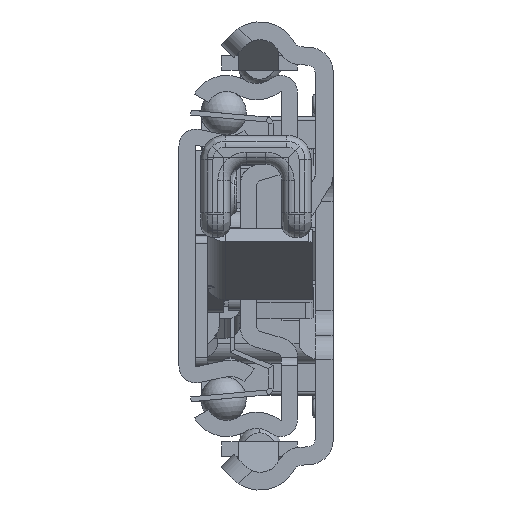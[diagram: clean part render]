
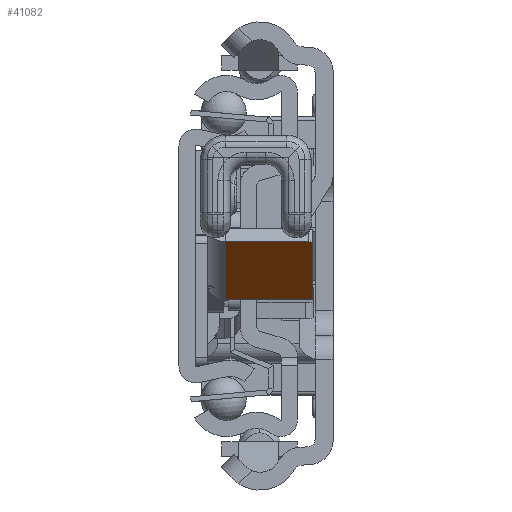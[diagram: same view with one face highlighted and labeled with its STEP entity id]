
A CAD part, left-side view. The second image highlights one B-rep face of the part: STEP entity #41082.
In plain terms, the highlighted planar face has unit normal (-0.597, 0, -0.802) as drawn and (-0.597, -0.802, 0) by its records, which use the part's own axes.
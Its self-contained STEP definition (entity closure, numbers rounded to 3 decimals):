
#40495=DIRECTION('',(0.802,-0.597,0.));
#40496=VECTOR('',#40495,12.);
#40497=CARTESIAN_POINT('',(31.957,-10.314,2.2));
#40498=LINE('',#40497,#40496);
#40523=CARTESIAN_POINT('',(32.358,-10.613,12.5));
#40524=DIRECTION('',(-0.597,-0.802,0.));
#40525=DIRECTION('',(0.,0.,1.));
#40526=AXIS2_PLACEMENT_3D('',#40523,#40524,#40525);
#40528=DIRECTION('',(-0.802,0.597,0.));
#40529=VECTOR('',#40528,11.5);
#40530=CARTESIAN_POINT('',(41.586,-17.476,13.));
#40531=LINE('',#40530,#40529);
#40532=DIRECTION('',(0.,0.,1.));
#40533=VECTOR('',#40532,10.8);
#40534=CARTESIAN_POINT('',(41.586,-17.476,2.2));
#40535=LINE('',#40534,#40533);
#40536=DIRECTION('',(0.,0.,-1.));
#40537=VECTOR('',#40536,10.3);
#40538=CARTESIAN_POINT('',(31.957,-10.314,12.5));
#40539=LINE('',#40538,#40537);
#40743=CARTESIAN_POINT('',(41.586,-17.476,2.2));
#40744=CARTESIAN_POINT('',(41.586,-17.476,13.));
#40745=VERTEX_POINT('',#40743);
#40746=VERTEX_POINT('',#40744);
#40747=CARTESIAN_POINT('',(31.957,-10.314,2.2));
#40748=VERTEX_POINT('',#40747);
#40779=CARTESIAN_POINT('',(32.358,-10.613,13.));
#40780=CARTESIAN_POINT('',(31.957,-10.314,12.5));
#40781=VERTEX_POINT('',#40779);
#40782=VERTEX_POINT('',#40780);
#41066=CARTESIAN_POINT('',(34.726,-12.374,0.));
#41067=DIRECTION('',(-0.597,-0.802,0.));
#41068=DIRECTION('',(0.802,-0.597,0.));
#41069=AXIS2_PLACEMENT_3D('',#41066,#41067,#41068);
#41070=PLANE('',#41069);
#41072=ORIENTED_EDGE('',*,*,#41071,.F.);
#41074=ORIENTED_EDGE('',*,*,#41073,.F.);
#41076=ORIENTED_EDGE('',*,*,#41075,.F.);
#41077=ORIENTED_EDGE('',*,*,#41053,.F.);
#41079=ORIENTED_EDGE('',*,*,#41078,.F.);
#41080=EDGE_LOOP('',(#41072,#41074,#41076,#41077,#41079));
#41081=FACE_OUTER_BOUND('',#41080,.F.);
#40527=CIRCLE('',#40526,0.5);
#41053=EDGE_CURVE('',#40748,#40745,#40498,.T.);
#41071=EDGE_CURVE('',#40781,#40782,#40527,.T.);
#41073=EDGE_CURVE('',#40746,#40781,#40531,.T.);
#41075=EDGE_CURVE('',#40745,#40746,#40535,.T.);
#41078=EDGE_CURVE('',#40782,#40748,#40539,.T.);
#41082=ADVANCED_FACE('',(#41081),#41070,.T.);
